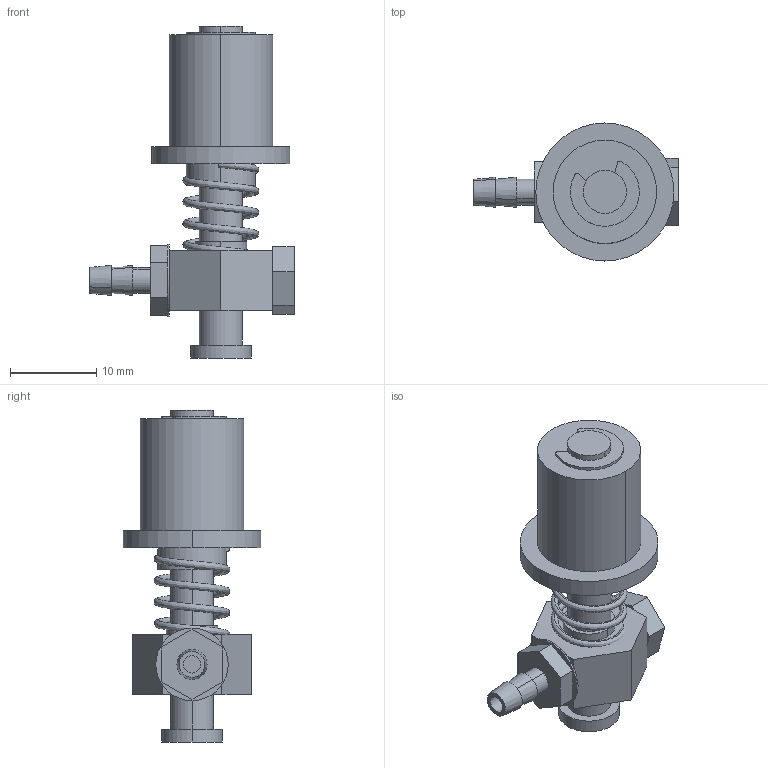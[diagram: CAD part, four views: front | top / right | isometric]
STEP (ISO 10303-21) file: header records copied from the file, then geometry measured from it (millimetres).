
FILE_DESCRIPTION (( 'STEP AP214' ), '1' );
FILE_NAME ('VFS-0512.STEP', '2019-11-16T00:38:14', ( '微软用户' ), ( '微软中国' ), 'SwSTEP 2.0', 'SolidWorks 2016', '' );
FILE_SCHEMA (( 'AUTOMOTIVE_DESIGN' ));
Length unit declared in the file: millimetre
Products named in the file (1): VFS-0512
Bounding box: 23.7 x 16 x 38.5 mm (x, y, z)
Volume: 3314.5 mm3; surface area: 3603 mm2
Topology: 8 solids, 8 shells, 131 faces, 305 edges, 202 vertices
Faces by surface type: cylinder 66, plane 54, bspline 7, cone 4
Entity records: 8020 total; most frequent: CARTESIAN_POINT 3574, ORIENTED_EDGE 610, DIRECTION 579, EDGE_CURVE 305, AXIS2_PLACEMENT_3D 217, VERTEX_POINT 202, EDGE_LOOP 153, LINE 145
